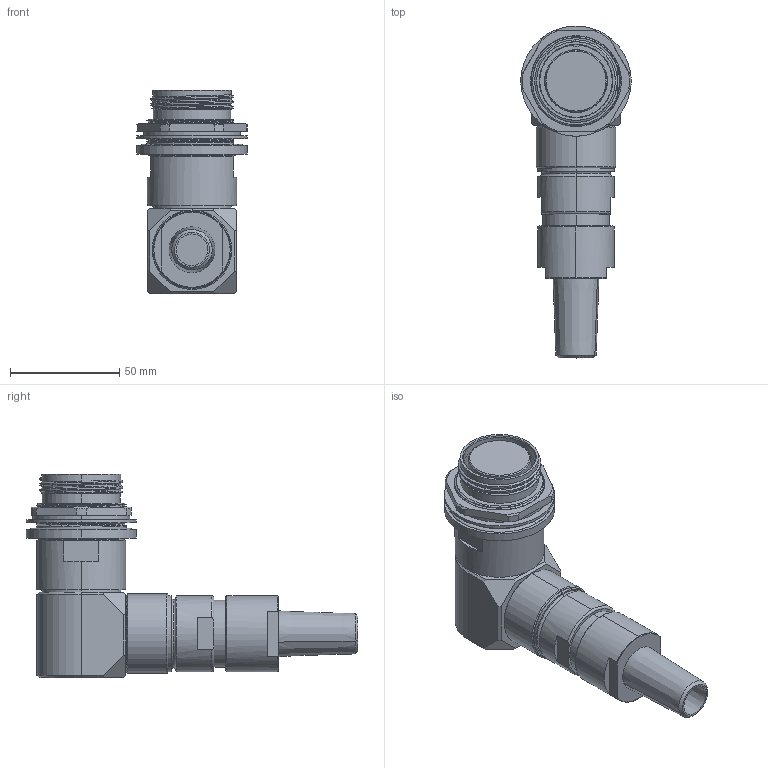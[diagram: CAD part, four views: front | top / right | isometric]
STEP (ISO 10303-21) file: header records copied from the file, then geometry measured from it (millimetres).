
FILE_DESCRIPTION (( 'STEP AP214' ), '1' );
FILE_NAME ('QLINK90-RJTX-23XX-SXXX.STEP', '2025-10-23T14:14:27', ( '' ), ( '' ), 'SwSTEP 2.0', 'SolidWorks 2024', '' );
FILE_SCHEMA (( 'AUTOMOTIVE_DESIGN' ));
Length unit declared in the file: millimetre
Products named in the file (1): QLINK90-RJTX-23XX-SXXX
Bounding box: 50.55 x 152.08 x 93.22 mm (x, y, z)
Volume: 194966.8 mm3; surface area: 40647.3 mm2
Topology: 2 solids, 5 shells, 295 faces, 741 edges, 475 vertices
Faces by surface type: cylinder 90, plane 75, cone 65, bspline 42, torus 23
Entity records: 21481 total; most frequent: CARTESIAN_POINT 14879, ORIENTED_EDGE 1482, DIRECTION 1271, EDGE_CURVE 741, AXIS2_PLACEMENT_3D 514, VERTEX_POINT 475, EDGE_LOOP 326, ADVANCED_FACE 295
